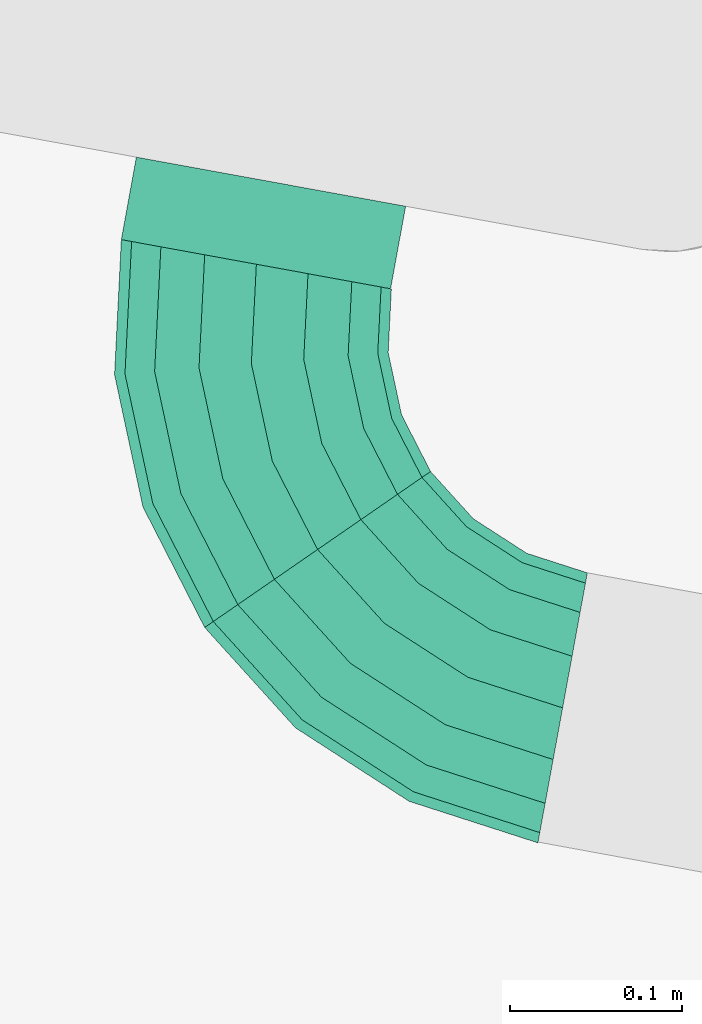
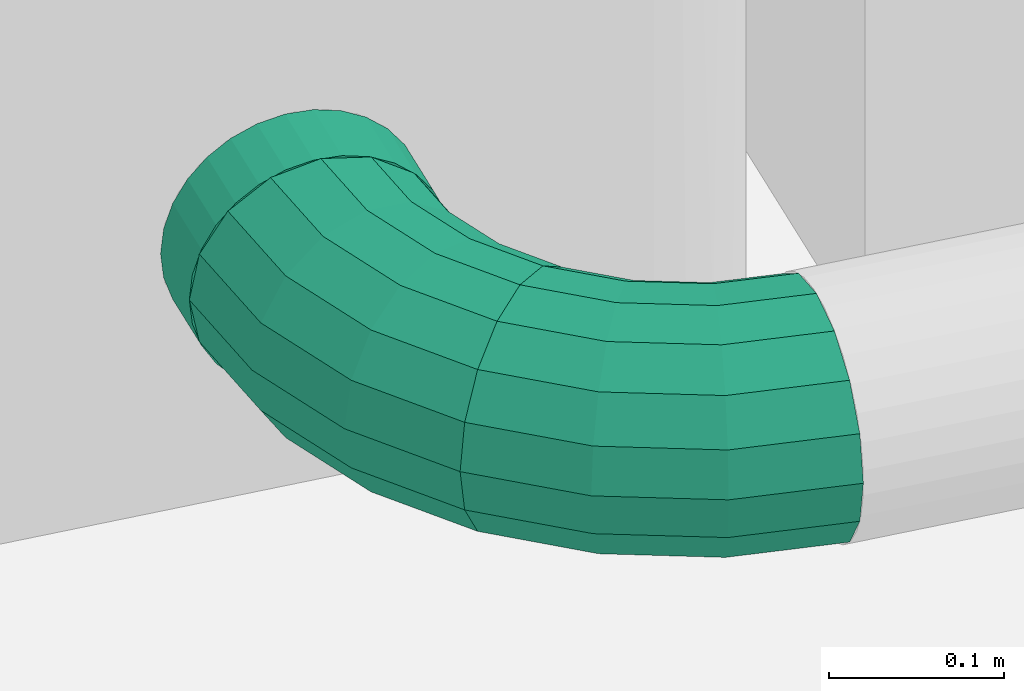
# One storey, part 14 of 17: 2 flow fittings, 1 flow segment.
"""IFC2X3 building model written with IfcOpenShell, lengths in centimetres."""

from ifc_helpers import new_model, entity, si_unit, converted_unit, derived_unit, direction, frame, frame_2d, origin, place, context, subcontext, project, spatial, circle, extrude, faceted_brep, source, transform, mapped, material, type_object, type_shapes, element, save


model = new_model("IFC2X3")

# Units and contexts
model_context = context("Model", 3, precision=0.001, world=origin(), true_north=direction((6.12303176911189e-17, 1.0)))
body_context = subcontext(model_context, "Body", "Model", "MODEL_VIEW")
ifc_project = project(units=[si_unit("LENGTHUNIT", "METRE", prefix="CENTI"), si_unit("AREAUNIT", "SQUARE_METRE"), si_unit("VOLUMEUNIT", "CUBIC_METRE"), converted_unit("PLANEANGLEUNIT", "DEGREE", entity("IfcRatioMeasure", 0.0174532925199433), si_unit("PLANEANGLEUNIT", "RADIAN"), dimensions=[0, 0, 0, 0, 0, 0, 0]), si_unit("MASSUNIT", "GRAM", prefix="KILO"), derived_unit("MASSDENSITYUNIT", [(si_unit("MASSUNIT", "GRAM", prefix="KILO"), 1), (si_unit("LENGTHUNIT", "METRE"), -3)]), si_unit("TIMEUNIT", "SECOND"), si_unit("FREQUENCYUNIT", "HERTZ"), si_unit("THERMODYNAMICTEMPERATUREUNIT", "DEGREE_CELSIUS"), derived_unit("THERMALTRANSMITTANCEUNIT", [(si_unit("MASSUNIT", "GRAM", prefix="KILO"), 1), (si_unit("THERMODYNAMICTEMPERATUREUNIT", "KELVIN"), -1), (si_unit("TIMEUNIT", "SECOND"), -3)]), derived_unit("VOLUMETRICFLOWRATEUNIT", [(si_unit("LENGTHUNIT", "METRE"), 3), (si_unit("TIMEUNIT", "SECOND"), -1)]), si_unit("ELECTRICCURRENTUNIT", "AMPERE"), si_unit("ELECTRICVOLTAGEUNIT", "VOLT"), si_unit("POWERUNIT", "WATT"), si_unit("FORCEUNIT", "NEWTON", prefix="KILO"), si_unit("ILLUMINANCEUNIT", "LUX"), si_unit("LUMINOUSFLUXUNIT", "LUMEN"), si_unit("LUMINOUSINTENSITYUNIT", "CANDELA"), derived_unit("USERDEFINED", [(si_unit("MASSUNIT", "GRAM", prefix="KILO"), -1), (si_unit("LENGTHUNIT", "METRE"), -2), (si_unit("TIMEUNIT", "SECOND"), 3), (si_unit("LUMINOUSFLUXUNIT", "LUMEN"), 1)]), derived_unit("LINEARVELOCITYUNIT", [(si_unit("LENGTHUNIT", "METRE"), 1), (si_unit("TIMEUNIT", "SECOND"), -1)]), si_unit("PRESSUREUNIT", "PASCAL"), derived_unit("USERDEFINED", [(si_unit("LENGTHUNIT", "METRE"), -2), (si_unit("MASSUNIT", "GRAM", prefix="KILO"), 1), (si_unit("TIMEUNIT", "SECOND"), -2)])], contexts=[model_context])

# Site, building, storey
site_placement = place(None, frame((2611.71187422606, 13650.4058644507, 0.0), z_axis=(0.0, 0.0, 1.0), x_axis=(0.0673222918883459, -0.997731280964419, 0.0)))
site = spatial("IfcSite", under=ifc_project, at=site_placement, Name="Surface", CompositionType="ELEMENT")
building_placement = place(site_placement, origin())
building = spatial("IfcBuilding", under=site, at=building_placement, CompositionType="ELEMENT")
storey_placement = place(building_placement, frame((0.0, 0.0, 86950.0)))
storey = spatial("IfcBuildingStorey", under=building, at=storey_placement, Name="-1 Soubassement", CompositionType="ELEMENT", Elevation=86950.0)

# Flow segment
pipe_segment_type = type_object("IfcPipeSegmentType", Name="Canalisation:Canalisation EP", PredefinedType="NOTDEFINED")
flow_segment_placement = place(storey_placement, origin())
element("IfcFlowSegment", 1, at=flow_segment_placement, inside=storey, type_object=pipe_segment_type, Name="Canalisation:Canalisation EP", ObjectType="Canalisation:Canalisation EP", context=body_context, shape_type="SweptSolid", body=[
    extrude(circle(Radius=8.0, at=frame_2d((-1.07463612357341e-13, 0.0), x_axis=(1.0, 0.0))), frame((5018.19794280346, -617.21657915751, 18.0), z_axis=(-0.969464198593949, 0.245232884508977, 0.0), x_axis=(-0.245232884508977, -0.969464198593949, 0.0)), (0.0, 0.0, 1.0), 4.88671561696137),
])

# Flow fittings
ifc_material = material(Name="PVC")
duct_fitting_type = type_object("IfcDuctFittingType", Name="Coude 45", PredefinedType="NOTDEFINED", material=ifc_material)
shared_shape = source(origin(), body_context, "Body", "Brep", [
    faceted_brep([(-9.6015510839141, 30.7584275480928, 8.0), (-8.07081735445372, 28.107118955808, 7.3910362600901), (-2.83521559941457, 32.1245374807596, 7.3910362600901), (-5.0, 34.2893218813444, 8.0), (-6.77312395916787, 25.8594480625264, 5.6568542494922), (-1.0, 30.2893218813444, 5.6568542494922), (-5.9060329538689, 24.3576023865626, 3.06146745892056), (0.226251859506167, 29.0630700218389, 3.06146745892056), (-5.60155108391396, 23.8302243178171, 0.0), (0.656854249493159, 28.6324676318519, 0.0), (-5.90603295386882, 24.3576023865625, -3.06146745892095), (0.226251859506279, 29.0630700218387, -3.06146745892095), (-6.77312395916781, 25.8594480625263, -5.65685424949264), (-1.0, 30.2893218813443, -5.65685424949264), (-8.07081735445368, 28.1071189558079, -7.39103626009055), (-2.83521559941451, 32.1245374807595, -7.39103626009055), (-9.60155108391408, 30.7584275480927, -8.0), (-5.0, 34.2893218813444, -8.0), (-11.1322848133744, 33.4097361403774, -7.39103626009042), (-7.1647844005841, 36.4541062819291, -7.39103626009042), (-12.4299782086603, 35.657407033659, -5.65685424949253), (-9.0, 38.2893218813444, -5.65685424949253), (-13.2970692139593, 37.1592527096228, -3.06146745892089), (-10.2262518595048, 39.5155737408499, -3.06146745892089), (-13.6015510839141, 37.6866307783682, 0.0), (-10.6568542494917, 39.9461761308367, 0.0), (-13.2970692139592, 37.1592527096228, 3.06146745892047), (-10.2262518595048, 39.5155737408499, 3.06146745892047), (-12.4299782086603, 35.6574070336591, 5.65685424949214), (-9.0, 38.2893218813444, 5.65685424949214), (-11.1322848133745, 33.4097361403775, 7.39103626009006), (-7.16478440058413, 36.4541062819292, 7.39103626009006), (-14.960170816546, 28.5388145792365, 8.0), (-14.1678047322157, 25.5816640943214, 7.3910362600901), (-13.4960692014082, 23.0747129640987, 5.6568542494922), (-13.0472298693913, 21.3996217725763, 3.06146745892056), (-12.8896184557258, 20.8114079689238, 0.0), (-13.0472298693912, 21.3996217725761, -3.06146745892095), (-13.4960692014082, 23.0747129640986, -5.65685424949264), (-14.1678047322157, 25.5816640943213, -7.39103626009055), (-14.960170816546, 28.5388145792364, -8.0), (-15.7525369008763, 31.4959650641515, -7.39103626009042), (-16.4242724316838, 34.0029161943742, -5.65685424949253), (-16.8731117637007, 35.6780073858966, -3.06146745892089), (-17.0307231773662, 36.2662211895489, 0.0), (-16.8731117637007, 35.6780073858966, 3.06146745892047), (-16.4242724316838, 34.0029161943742, 5.65685424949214), (-15.7525369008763, 31.4959650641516, 7.39103626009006), (-20.710678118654, 27.7817459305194, 8.0), (-20.7106781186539, 24.7202784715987, 7.3910362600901), (-20.7106781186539, 22.124891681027, 5.6568542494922), (-20.7106781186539, 20.3907096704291, 3.06146745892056), (-20.7106781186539, 19.7817459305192, 0.0), (-20.7106781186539, 20.3907096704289, -3.06146745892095), (-20.7106781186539, 22.1248916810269, -5.65685424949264), (-20.7106781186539, 24.7202784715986, -7.39103626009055), (-20.710678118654, 27.7817459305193, -8.0), (-20.710678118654, 30.84321338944, -7.39103626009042), (-20.710678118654, 33.4386001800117, -5.65685424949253), (-20.710678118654, 35.1727821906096, -3.06146745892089), (-20.710678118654, 35.7817459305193, 0.0), (-20.710678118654, 35.1727821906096, 3.06146745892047), (-20.710678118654, 33.4386001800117, 5.65685424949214), (-20.710678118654, 30.8432133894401, 7.39103626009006)], [[[0, 1, 2, 3]], [[1, 4, 5, 2]], [[4, 6, 7, 5]], [[6, 8, 9, 7]], [[8, 10, 11, 9]], [[10, 12, 13, 11]], [[12, 14, 15, 13]], [[14, 16, 17, 15]], [[16, 18, 19, 17]], [[18, 20, 21, 19]], [[20, 22, 23, 21]], [[22, 24, 25, 23]], [[24, 26, 27, 25]], [[26, 28, 29, 27]], [[28, 30, 31, 29]], [[30, 0, 3, 31]], [[32, 33, 1, 0]], [[33, 34, 4, 1]], [[34, 35, 6, 4]], [[35, 36, 8, 6]], [[36, 37, 10, 8]], [[37, 38, 12, 10]], [[38, 39, 14, 12]], [[39, 40, 16, 14]], [[40, 41, 18, 16]], [[41, 42, 20, 18]], [[42, 43, 22, 20]], [[43, 44, 24, 22]], [[44, 45, 26, 24]], [[45, 46, 28, 26]], [[46, 47, 30, 28]], [[47, 32, 0, 30]], [[48, 49, 33, 32]], [[49, 50, 34, 33]], [[50, 51, 35, 34]], [[51, 52, 36, 35]], [[52, 53, 37, 36]], [[53, 54, 38, 37]], [[54, 55, 39, 38]], [[55, 56, 40, 39]], [[56, 57, 41, 40]], [[57, 58, 42, 41]], [[58, 59, 43, 42]], [[59, 60, 44, 43]], [[60, 61, 45, 44]], [[61, 62, 46, 45]], [[62, 63, 47, 46]], [[63, 48, 32, 47]], [[3, 2, 5, 7, 9, 11, 13, 15, 17, 19, 21, 23, 25, 27, 29, 31]], [[63, 62, 61, 60, 59, 58, 57, 56, 55, 54, 53, 52, 51, 50, 49, 48]]]),
])
type_shapes(duct_fitting_type, [shared_shape])
for number, where, z_axis, x_axis, name in (
    (2, (5031.43966614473, -649.238670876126, 18.0), (0.0, 0.0, 1.0), (0.969283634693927, -0.245945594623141, 0.0), "coude 45:Coude 45"),
    (3, (5067.03290620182, -628.052590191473, 18.0), (0.0, 0.0, 1.0), (0.859296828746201, 0.511477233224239, 0.0), "coude 45:Coude 45"),
):
    element("IfcFlowFitting", number, at=place(storey_placement, frame(where, z_axis=z_axis, x_axis=x_axis)), inside=storey, type_object=duct_fitting_type, material=ifc_material, Name=name, ObjectType="coude 45:Coude 45", context=body_context, shape_type="MappedRepresentation", body=[
        mapped(shared_shape, transform((0.0, 0.0, 0.0), scale=1.0)),
    ])

save(model, "model.ifc")
